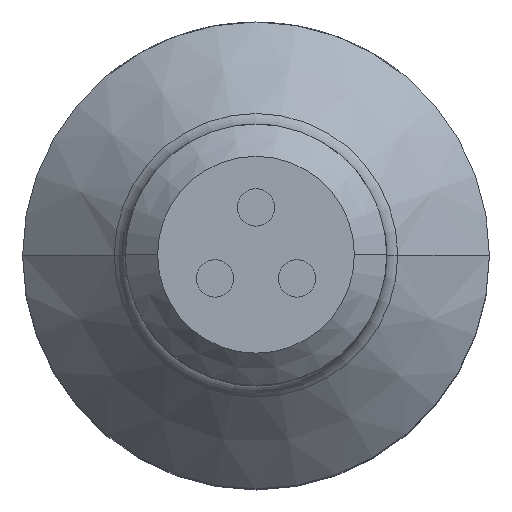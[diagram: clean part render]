
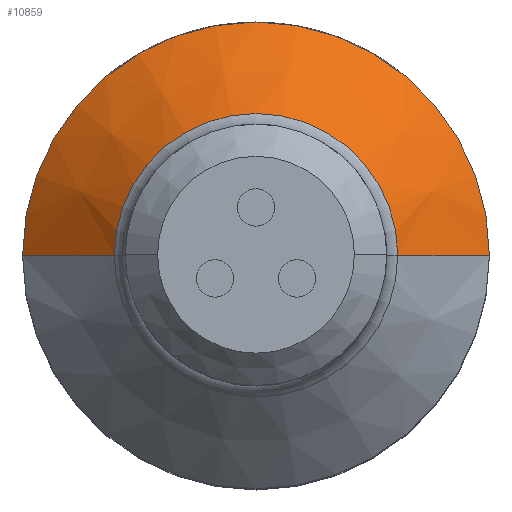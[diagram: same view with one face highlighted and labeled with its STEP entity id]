
A CAD part, top view. The second image highlights one B-rep face of the part: STEP entity #10859.
In plain terms, the highlighted conical face has half-angle 45 degrees and reference radius 2.38 mm.
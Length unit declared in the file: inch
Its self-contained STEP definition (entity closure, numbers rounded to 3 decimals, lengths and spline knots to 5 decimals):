
#300 = CIRCLE ( 'NONE', #2765, 0.0937 ) ;
#769 = ORIENTED_EDGE ( 'NONE', *, *, #4004, .T. ) ;
#1013 = CARTESIAN_POINT ( 'NONE',  ( 0., 0., 0.265 ) ) ;
#1066 = CARTESIAN_POINT ( 'NONE',  ( 0.0937, 0., 0.265 ) ) ;
#1124 = AXIS2_PLACEMENT_3D ( 'NONE', #9430, #10246, #8558 ) ;
#1493 = VERTEX_POINT ( 'NONE', #6475 ) ;
#1794 = EDGE_CURVE ( 'NONE', #7433, #5121, #3608, .T. ) ;
#1907 = DIRECTION ( 'NONE',  ( 0., 0., -1. ) ) ;
#2564 = CARTESIAN_POINT ( 'NONE',  ( -0.0937, 0., 0.265 ) ) ;
#2765 = AXIS2_PLACEMENT_3D ( 'NONE', #4469, #7905, #8855 ) ;
#3608 = CIRCLE ( 'NONE', #1124, 0.05689 ) ;
#3696 = VECTOR ( 'NONE', #5208, 39.37008 ) ;
#4004 = EDGE_CURVE ( 'NONE', #5121, #8979, #5197, .T. ) ;
#4321 = EDGE_LOOP ( 'NONE', ( #9941, #769, #8820, #10126 ) ) ;
#4384 = CONICAL_SURFACE ( 'NONE', #10635, 0.0937, 0.785 ) ;
#4400 = CARTESIAN_POINT ( 'NONE',  ( 0.05689, 0., 0.30181 ) ) ;
#4469 = CARTESIAN_POINT ( 'NONE',  ( 0., 0., 0.265 ) ) ;
#5121 = VERTEX_POINT ( 'NONE', #4400 ) ;
#5197 = LINE ( 'NONE', #1066, #10127 ) ;
#5208 = DIRECTION ( 'NONE',  ( -0.707, 0., -0.707 ) ) ;
#6475 = CARTESIAN_POINT ( 'NONE',  ( -0.0937, 0., 0.265 ) ) ;
#7433 = VERTEX_POINT ( 'NONE', #8867 ) ;
#7905 = DIRECTION ( 'NONE',  ( 0., 0., -1. ) ) ;
#8558 = DIRECTION ( 'NONE',  ( -1., 0., 0. ) ) ;
#8559 = DIRECTION ( 'NONE',  ( 0.707, 0., -0.707 ) ) ;
#8673 = FACE_OUTER_BOUND ( 'NONE', #4321, .T. ) ;
#8820 = ORIENTED_EDGE ( 'NONE', *, *, #9999, .F. ) ;
#8855 = DIRECTION ( 'NONE',  ( -1., 0., 0. ) ) ;
#8867 = CARTESIAN_POINT ( 'NONE',  ( -0.05689, 0., 0.30181 ) ) ;
#8969 = CARTESIAN_POINT ( 'NONE',  ( 0.0937, 0., 0.265 ) ) ;
#8979 = VERTEX_POINT ( 'NONE', #8969 ) ;
#9381 = DIRECTION ( 'NONE',  ( -1., 0., 0. ) ) ;
#9430 = CARTESIAN_POINT ( 'NONE',  ( 0., 0., 0.30181 ) ) ;
#9496 = LINE ( 'NONE', #2564, #3696 ) ;
#9941 = ORIENTED_EDGE ( 'NONE', *, *, #1794, .T. ) ;
#9999 = EDGE_CURVE ( 'NONE', #1493, #8979, #300, .T. ) ;
#10126 = ORIENTED_EDGE ( 'NONE', *, *, #10833, .F. ) ;
#10127 = VECTOR ( 'NONE', #8559, 39.37008 ) ;
#10246 = DIRECTION ( 'NONE',  ( 0., 0., -1. ) ) ;
#10635 = AXIS2_PLACEMENT_3D ( 'NONE', #1013, #1907, #9381 ) ;
#10833 = EDGE_CURVE ( 'NONE', #7433, #1493, #9496, .T. ) ;
#10859 = ADVANCED_FACE ( 'NONE', ( #8673 ), #4384, .T. ) ;
